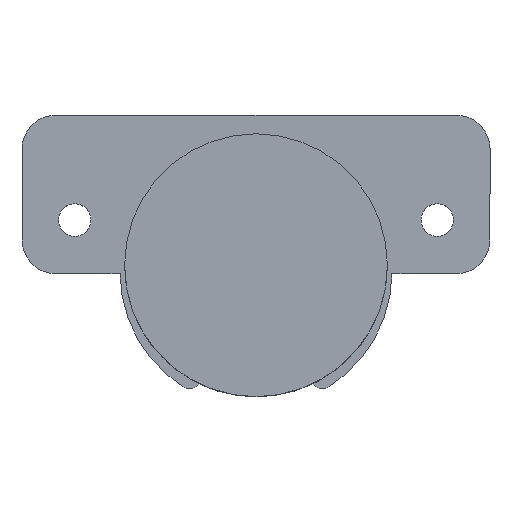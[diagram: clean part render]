
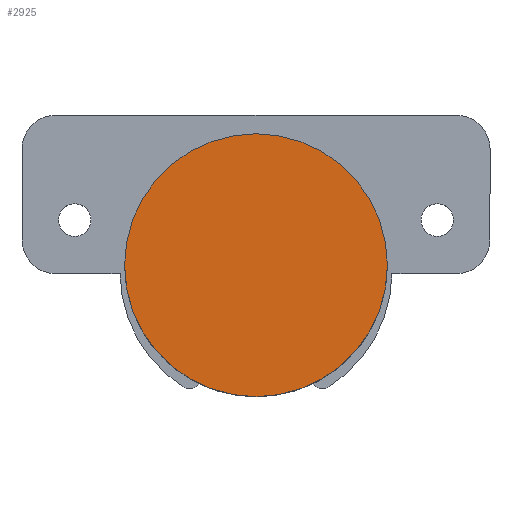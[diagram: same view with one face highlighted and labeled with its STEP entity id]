
A CAD part, top view. The second image highlights one B-rep face of the part: STEP entity #2925.
In plain terms, the highlighted planar face has unit normal (0, 0, 1).
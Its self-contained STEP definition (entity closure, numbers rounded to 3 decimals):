
#39 = CARTESIAN_POINT ( 'NONE',  ( 0., 5.509, 50.288 ) ) ;
#96 = ORIENTED_EDGE ( 'NONE', *, *, #493, .T. ) ;
#228 = PLANE ( 'NONE',  #2657 ) ;
#261 = DIRECTION ( 'NONE',  ( 0., 0., 1. ) ) ;
#310 = VERTEX_POINT ( 'NONE', #2320 ) ;
#475 = DIRECTION ( 'NONE',  ( 1., 0., 0. ) ) ;
#493 = EDGE_CURVE ( 'NONE', #2614, #310, #646, .T. ) ;
#646 = CIRCLE ( 'NONE', #846, 17.4 ) ;
#705 = FACE_OUTER_BOUND ( 'NONE', #2760, .T. ) ;
#846 = AXIS2_PLACEMENT_3D ( 'NONE', #39, #958, #2559 ) ;
#958 = DIRECTION ( 'NONE',  ( 0., 0., 1. ) ) ;
#1146 = DIRECTION ( 'NONE',  ( 1., 0., 0. ) ) ;
#1416 = CARTESIAN_POINT ( 'NONE',  ( 0., 5.509, 50.288 ) ) ;
#1486 = ORIENTED_EDGE ( 'NONE', *, *, #2883, .T. ) ;
#1869 = DIRECTION ( 'NONE',  ( 0., 0., 1. ) ) ;
#2008 = CIRCLE ( 'NONE', #2239, 17.4 ) ;
#2239 = AXIS2_PLACEMENT_3D ( 'NONE', #2722, #1869, #475 ) ;
#2320 = CARTESIAN_POINT ( 'NONE',  ( -17.4, 5.509, 50.288 ) ) ;
#2559 = DIRECTION ( 'NONE',  ( 1., 0., 0. ) ) ;
#2573 = CARTESIAN_POINT ( 'NONE',  ( 17.4, 5.509, 50.288 ) ) ;
#2614 = VERTEX_POINT ( 'NONE', #2573 ) ;
#2657 = AXIS2_PLACEMENT_3D ( 'NONE', #1416, #261, #1146 ) ;
#2722 = CARTESIAN_POINT ( 'NONE',  ( 0., 5.509, 50.288 ) ) ;
#2760 = EDGE_LOOP ( 'NONE', ( #96, #1486 ) ) ;
#2883 = EDGE_CURVE ( 'NONE', #310, #2614, #2008, .T. ) ;
#2925 = ADVANCED_FACE ( 'NONE', ( #705 ), #228, .T. ) ;
